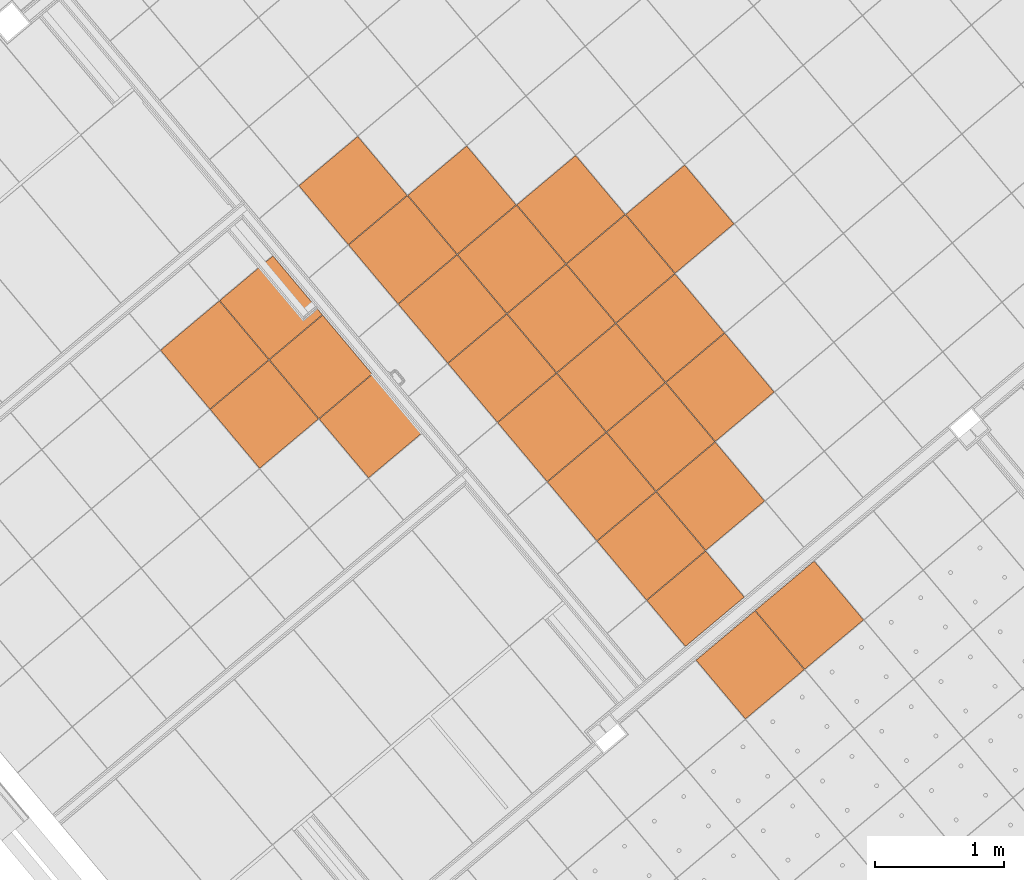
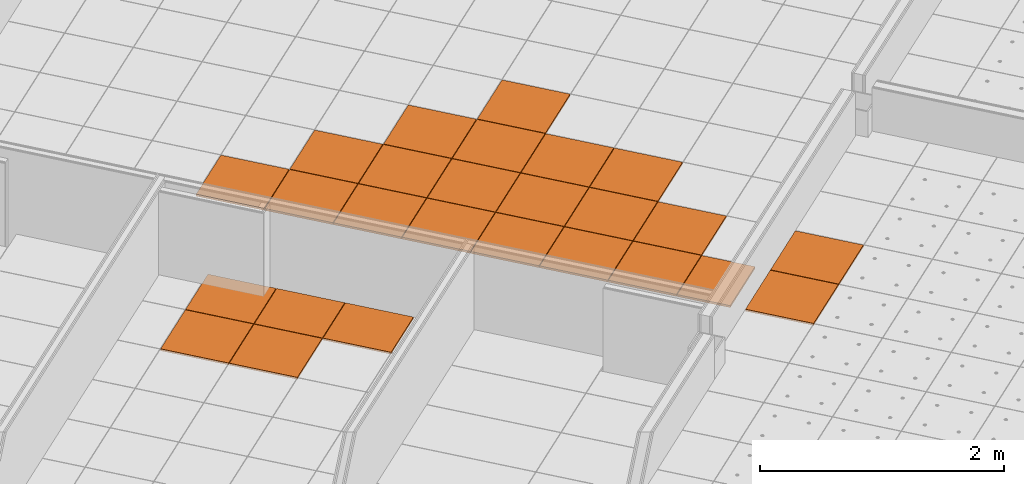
# One storey, part 145 of 338: 26 proxies, 3 elements without a shape of their own.
"""IFC2X3 building model written with IfcOpenShell, lengths in millimetres."""

from ifc_helpers import new_model, entity, si_unit, converted_unit, derived_unit, money_unit, direction, frame, origin_with_axes, place, context, subcontext, project, spatial, faceted_brep, source, transform, mapped, material, type_object, type_shapes, element, aggregate, save


model = new_model("IFC2X3")

# Units and contexts
model_context = context("Model", 3, precision=0.01, world=origin_with_axes(), true_north=direction((0.0, 1.0)))
plan_context = context("Plan", 3, precision=0.01, world=origin_with_axes(), true_north=direction((0.0, 1.0)))
body_context = subcontext(model_context, "Body", "Model", "MODEL_VIEW")
ifc_project = project(units=[si_unit("LENGTHUNIT", "METRE", prefix="MILLI"), si_unit("AREAUNIT", "SQUARE_METRE"), si_unit("VOLUMEUNIT", "CUBIC_METRE"), converted_unit("PLANEANGLEUNIT", "DEGREE", entity("IfcPlaneAngleMeasure", 0.0174532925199), si_unit("PLANEANGLEUNIT", "RADIAN"), dimensions=[0, 0, 0, 0, 0, 0, 0]), money_unit("EUR"), converted_unit("TIMEUNIT", "Year", entity("IfcTimeMeasure", 31556926.0), si_unit("TIMEUNIT", "SECOND"), dimensions=[0, 0, 1, 0, 0, 0, 0]), si_unit("MASSUNIT", "GRAM", prefix="KILO"), si_unit("THERMODYNAMICTEMPERATUREUNIT", "DEGREE_CELSIUS"), si_unit("LUMINOUSINTENSITYUNIT", "LUMEN"), si_unit("ENERGYUNIT", "JOULE", prefix="MEGA"), derived_unit("THERMALCONDUCTANCEUNIT", [(si_unit("POWERUNIT", "WATT"), 1), (si_unit("LENGTHUNIT", "METRE"), -1), (si_unit("THERMODYNAMICTEMPERATUREUNIT", "KELVIN"), -1)]), derived_unit("SPECIFICHEATCAPACITYUNIT", [(si_unit("ENERGYUNIT", "JOULE"), 1), (si_unit("MASSUNIT", "GRAM", prefix="KILO"), -1), (si_unit("THERMODYNAMICTEMPERATUREUNIT", "KELVIN"), -1)]), derived_unit("MASSDENSITYUNIT", [(si_unit("MASSUNIT", "GRAM", prefix="KILO"), 1), (si_unit("VOLUMEUNIT", "CUBIC_METRE"), -1)])], contexts=[model_context, plan_context])

# Site, building, storey
site_placement = place(None, origin_with_axes())
site = spatial("IfcSite", under=ifc_project, at=site_placement, Name="Fortuinstraat Woensdrecht", CompositionType="ELEMENT")
building_placement = place(site_placement, origin_with_axes())
building = spatial("IfcBuilding", under=site, at=building_placement, Name="IKC Fortuna", CompositionType="ELEMENT")
storey_placement = place(building_placement, origin_with_axes())
storey = spatial("IfcBuildingStorey", under=building, at=storey_placement, Name="00 begane grond", CompositionType="ELEMENT", Elevation=0.0)

# Covering, proxies
covering_type = type_object("IfcCoveringType", Name="Curtain Wall Type", PredefinedType="CEILING")
covering_1_placement = place(storey_placement, frame((17937.1227498, -4186.27868692, 4660.0), z_axis=(0.0, 0.0, 1.0), x_axis=(1.0, 0.0, 0.0)))
covering_1 = element("IfcCovering", 1, at=covering_1_placement, inside=storey, type_object=covering_type, Name="45_Plafondafwerking_P02", PredefinedType="CEILING")
ifc_material = material(Name="Gipsplaat")
building_element_proxy_type_1 = type_object("IfcBuildingElementProxyType", Name="Distinct Panel 600 x 600 x 20", PredefinedType="NOTDEFINED")
shared_shape_1 = source(origin_with_axes(), body_context, "Body", "Brep", [
    faceted_brep([(2.49999999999, 2.5, -10.0), (597.5, 2.49999999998, -10.0), (597.5, 2.49999999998, 10.0), (2.49999999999, 2.5, 10.0), (2.50000000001, 597.5, -10.0), (597.5, 597.5, -10.0), (597.5, 597.5, 10.0), (2.50000000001, 597.5, 10.0)], [[[0, 1, 2, 3]], [[0, 4, 5, 1]], [[1, 5, 6, 2]], [[3, 2, 6, 7]], [[4, 0, 3, 7]], [[5, 4, 7, 6]]]),
])
proxy_1_placement = place(covering_1_placement, frame((-4743.95298071, -1813.8520166, 2.18491891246e-10), z_axis=(0.0, 0.0, 1.0), x_axis=(1.0, 0.0, 0.0)))
proxy_1 = element("IfcBuildingElementProxy", 2, at=proxy_1_placement, type_object=building_element_proxy_type_1, material=ifc_material, Name="__Panel-D", context=body_context, shape_type="MappedRepresentation", body=[
    mapped(shared_shape_1, transform((36.9769427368, 422.649625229, 0.0), x_axis=(-0.766044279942, -0.642787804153, 0.0), y_axis=(0.642787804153, -0.766044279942, 0.0), z_axis=(0.0, 0.0, 1.0))),
])
proxy_2_placement = place(covering_1_placement, frame((-5589.25223117, -1739.89813113, 2.3803181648e-10), z_axis=(0.0, 0.0, 1.0), x_axis=(1.0, 0.0, 0.0)))
proxy_2 = element("IfcBuildingElementProxy", 3, at=proxy_2_placement, type_object=building_element_proxy_type_1, material=ifc_material, Name="__Panel-D", context=body_context, shape_type="MappedRepresentation", body=[
    mapped(shared_shape_1, transform((36.9769427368, 422.649625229, 0.0), x_axis=(-0.766044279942, -0.642787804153, 0.0), y_axis=(0.642787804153, -0.766044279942, 0.0), z_axis=(0.0, 0.0, 1.0))),
])
proxy_3_placement = place(covering_1_placement, frame((-5129.62566321, -1354.22544863, 2.18491891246e-10), z_axis=(0.0, 0.0, 1.0), x_axis=(1.0, 0.0, 0.0)))
proxy_3 = element("IfcBuildingElementProxy", 4, at=proxy_3_placement, type_object=building_element_proxy_type_1, material=ifc_material, Name="__Panel-D", context=body_context, shape_type="MappedRepresentation", body=[
    mapped(shared_shape_1, transform((36.9769427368, 422.649625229, 0.0), x_axis=(-0.766044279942, -0.642787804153, 0.0), y_axis=(0.642787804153, -0.766044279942, 0.0), z_axis=(0.0, 0.0, 1.0))),
])
proxy_4_placement = place(covering_1_placement, frame((-5515.2983457, -894.598880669, 2.18491891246e-10), z_axis=(0.0, 0.0, 1.0), x_axis=(1.0, 0.0, 0.0)))
proxy_4 = element("IfcBuildingElementProxy", 5, at=proxy_4_placement, type_object=building_element_proxy_type_1, material=ifc_material, Name="__Panel-D", context=body_context, shape_type="MappedRepresentation", body=[
    mapped(shared_shape_1, transform((36.9769427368, 422.649625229, 0.0), x_axis=(-0.766044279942, -0.642787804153, 0.0), y_axis=(0.642787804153, -0.766044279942, 0.0), z_axis=(0.0, 0.0, 1.0))),
])
proxy_5_placement = place(covering_1_placement, frame((-5900.97102819, -434.972312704, 2.18491891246e-10), z_axis=(0.0, 0.0, 1.0), x_axis=(1.0, 0.0, 0.0)))
proxy_5 = element("IfcBuildingElementProxy", 6, at=proxy_5_placement, type_object=building_element_proxy_type_1, material=ifc_material, Name="__Panel-D", context=body_context, shape_type="MappedRepresentation", body=[
    mapped(shared_shape_1, transform((36.9769427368, 422.649625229, 0.0), x_axis=(-0.766044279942, -0.642787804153, 0.0), y_axis=(0.642787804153, -0.766044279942, 0.0), z_axis=(0.0, 0.0, 1.0))),
])
proxy_6_placement = place(covering_1_placement, frame((-5277.53343415, -3044.82394955, 2.57571741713e-10), z_axis=(0.0, 0.0, 1.0), x_axis=(1.0, 0.0, 0.0)))
proxy_6 = element("IfcBuildingElementProxy", 7, at=proxy_6_placement, type_object=building_element_proxy_type_1, material=ifc_material, Name="__Panel-D", context=body_context, shape_type="MappedRepresentation", body=[
    mapped(shared_shape_1, transform((36.9769427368, 422.649625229, 0.0), x_axis=(-0.766044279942, -0.642787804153, 0.0), y_axis=(0.642787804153, -0.766044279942, 0.0), z_axis=(0.0, 0.0, 1.0))),
])
proxy_7_placement = place(covering_1_placement, frame((-6434.55148163, -1665.94424565, 2.57571741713e-10), z_axis=(0.0, 0.0, 1.0), x_axis=(1.0, 0.0, 0.0)))
proxy_7 = element("IfcBuildingElementProxy", 8, at=proxy_7_placement, type_object=building_element_proxy_type_1, material=ifc_material, Name="__Panel-D", context=body_context, shape_type="MappedRepresentation", body=[
    mapped(shared_shape_1, transform((36.9769427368, 422.649625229, 0.0), x_axis=(-0.766044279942, -0.642787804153, 0.0), y_axis=(0.642787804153, -0.766044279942, 0.0), z_axis=(0.0, 0.0, 1.0))),
])
proxy_8_placement = place(covering_1_placement, frame((-7591.5695291, -287.064541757, 2.57571741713e-10), z_axis=(0.0, 0.0, 1.0), x_axis=(1.0, 0.0, 0.0)))
proxy_8 = element("IfcBuildingElementProxy", 9, at=proxy_8_placement, type_object=building_element_proxy_type_1, material=ifc_material, Name="__Panel-D", context=body_context, shape_type="MappedRepresentation", body=[
    mapped(shared_shape_1, transform((36.9769427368, 422.649625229, 0.0), x_axis=(-0.766044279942, -0.642787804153, 0.0), y_axis=(0.642787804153, -0.766044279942, 0.0), z_axis=(0.0, 0.0, 1.0))),
])
proxy_9_placement = place(covering_1_placement, frame((-5055.67177773, -508.926198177, 1.98951966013e-10), z_axis=(0.0, 0.0, 1.0), x_axis=(1.0, 0.0, 0.0)))
proxy_9 = element("IfcBuildingElementProxy", 10, at=proxy_9_placement, type_object=building_element_proxy_type_1, material=ifc_material, Name="__Panel-D", context=body_context, shape_type="MappedRepresentation", body=[
    mapped(shared_shape_1, transform((36.9769427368, 422.649625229, 0.0), x_axis=(-0.766044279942, -0.642787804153, 0.0), y_axis=(0.642787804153, -0.766044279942, 0.0), z_axis=(0.0, 0.0, 1.0))),
])
proxy_10_placement = place(covering_1_placement, frame((-6048.87879914, -2125.57081362, 2.57571741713e-10), z_axis=(0.0, 0.0, 1.0), x_axis=(1.0, 0.0, 0.0)))
proxy_10 = element("IfcBuildingElementProxy", 11, at=proxy_10_placement, type_object=building_element_proxy_type_1, material=ifc_material, Name="__Panel-D", context=body_context, shape_type="MappedRepresentation", body=[
    mapped(shared_shape_1, transform((36.9769427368, 422.649625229, 0.0), x_axis=(-0.766044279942, -0.642787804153, 0.0), y_axis=(0.642787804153, -0.766044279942, 0.0), z_axis=(0.0, 0.0, 1.0))),
])
proxy_11_placement = place(covering_1_placement, frame((-6820.22416412, -1206.31767769, 2.57571741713e-10), z_axis=(0.0, 0.0, 1.0), x_axis=(1.0, 0.0, 0.0)))
proxy_11 = element("IfcBuildingElementProxy", 12, at=proxy_11_placement, type_object=building_element_proxy_type_1, material=ifc_material, Name="__Panel-D", context=body_context, shape_type="MappedRepresentation", body=[
    mapped(shared_shape_1, transform((36.9769427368, 422.649625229, 0.0), x_axis=(-0.766044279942, -0.642787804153, 0.0), y_axis=(0.642787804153, -0.766044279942, 0.0), z_axis=(0.0, 0.0, 1.0))),
])
proxy_12_placement = place(covering_1_placement, frame((-4817.90686619, -2659.15126706, 2.3803181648e-10), z_axis=(0.0, 0.0, 1.0), x_axis=(1.0, 0.0, 0.0)))
proxy_12 = element("IfcBuildingElementProxy", 13, at=proxy_12_placement, type_object=building_element_proxy_type_1, material=ifc_material, Name="__Panel-D", context=body_context, shape_type="MappedRepresentation", body=[
    mapped(shared_shape_1, transform((36.9769427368, 422.649625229, 0.0), x_axis=(-0.766044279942, -0.642787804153, 0.0), y_axis=(0.642787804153, -0.766044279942, 0.0), z_axis=(0.0, 0.0, 1.0))),
])
proxy_13_placement = place(covering_1_placement, frame((-5203.57954868, -2199.52469909, 2.3803181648e-10), z_axis=(0.0, 0.0, 1.0), x_axis=(1.0, 0.0, 0.0)))
proxy_13 = element("IfcBuildingElementProxy", 14, at=proxy_13_placement, type_object=building_element_proxy_type_1, material=ifc_material, Name="__Panel-D", context=body_context, shape_type="MappedRepresentation", body=[
    mapped(shared_shape_1, transform((36.9769427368, 422.649625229, 0.0), x_axis=(-0.766044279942, -0.642787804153, 0.0), y_axis=(0.642787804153, -0.766044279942, 0.0), z_axis=(0.0, 0.0, 1.0))),
])
proxy_14_placement = place(covering_1_placement, frame((-7205.89684661, -746.691109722, 2.57571741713e-10), z_axis=(0.0, 0.0, 1.0), x_axis=(1.0, 0.0, 0.0)))
proxy_14 = element("IfcBuildingElementProxy", 15, at=proxy_14_placement, type_object=building_element_proxy_type_1, material=ifc_material, Name="__Panel-D", context=body_context, shape_type="MappedRepresentation", body=[
    mapped(shared_shape_1, transform((36.9769427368, 422.649625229, 0.0), x_axis=(-0.766044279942, -0.642787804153, 0.0), y_axis=(0.642787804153, -0.766044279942, 0.0), z_axis=(0.0, 0.0, 1.0))),
])
proxy_15_placement = place(covering_1_placement, frame((-5663.20611665, -2585.19738158, 2.57571741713e-10), z_axis=(0.0, 0.0, 1.0), x_axis=(1.0, 0.0, 0.0)))
proxy_15 = element("IfcBuildingElementProxy", 16, at=proxy_15_placement, type_object=building_element_proxy_type_1, material=ifc_material, Name="__Panel-D", context=body_context, shape_type="MappedRepresentation", body=[
    mapped(shared_shape_1, transform((36.9769427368, 422.649625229, 0.0), x_axis=(-0.766044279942, -0.642787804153, 0.0), y_axis=(0.642787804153, -0.766044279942, 0.0), z_axis=(0.0, 0.0, 1.0))),
])
proxy_16_placement = place(covering_1_placement, frame((-5974.92491366, -1280.27156316, 2.3803181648e-10), z_axis=(0.0, 0.0, 1.0), x_axis=(1.0, 0.0, 0.0)))
proxy_16 = element("IfcBuildingElementProxy", 17, at=proxy_16_placement, type_object=building_element_proxy_type_1, material=ifc_material, Name="__Panel-D", context=body_context, shape_type="MappedRepresentation", body=[
    mapped(shared_shape_1, transform((36.9769427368, 422.649625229, 0.0), x_axis=(-0.766044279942, -0.642787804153, 0.0), y_axis=(0.642787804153, -0.766044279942, 0.0), z_axis=(0.0, 0.0, 1.0))),
])
proxy_17_placement = place(covering_1_placement, frame((-6360.59759616, -820.644995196, 2.3803181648e-10), z_axis=(0.0, 0.0, 1.0), x_axis=(1.0, 0.0, 0.0)))
proxy_17 = element("IfcBuildingElementProxy", 18, at=proxy_17_placement, type_object=building_element_proxy_type_1, material=ifc_material, Name="__Panel-D", context=body_context, shape_type="MappedRepresentation", body=[
    mapped(shared_shape_1, transform((36.9769427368, 422.649625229, 0.0), x_axis=(-0.766044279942, -0.642787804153, 0.0), y_axis=(0.642787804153, -0.766044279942, 0.0), z_axis=(0.0, 0.0, 1.0))),
])
proxy_18_placement = place(covering_1_placement, frame((-6746.27027865, -361.01842723, 2.3803181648e-10), z_axis=(0.0, 0.0, 1.0), x_axis=(1.0, 0.0, 0.0)))
proxy_18 = element("IfcBuildingElementProxy", 19, at=proxy_18_placement, type_object=building_element_proxy_type_1, material=ifc_material, Name="__Panel-D", context=body_context, shape_type="MappedRepresentation", body=[
    mapped(shared_shape_1, transform((36.9769427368, 422.649625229, 0.0), x_axis=(-0.766044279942, -0.642787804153, 0.0), y_axis=(0.642787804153, -0.766044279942, 0.0), z_axis=(0.0, 0.0, 1.0))),
])
building_element_proxy_type_2 = type_object("IfcBuildingElementProxyType", Name="Distinct Panel 600 x 470 x 20", PredefinedType="NOTDEFINED")
shared_shape_2 = source(origin_with_axes(), body_context, "Body", "Brep", [
    faceted_brep([(2.49999368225, 2.50000660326, -10.0), (597.499997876, 2.49999535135, -10.0), (597.499997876, 2.49999535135, 10.0), (2.49999368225, 2.50000660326, 10.0), (2.49999873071, 467.226768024, -10.0), (597.500011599, 467.226749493, -10.0), (597.500011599, 467.226749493, 10.0), (2.49999873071, 467.226768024, 10.0)], [[[0, 1, 2, 3]], [[0, 4, 5, 1]], [[1, 5, 6, 2]], [[3, 2, 6, 7]], [[4, 0, 3, 7]], [[5, 4, 7, 6]]]),
])
type_shapes(building_element_proxy_type_2, [shared_shape_2])
proxy_19_placement = place(covering_1_placement, frame((-4933.72977742, -3454.55298137, 2.57571741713e-10), z_axis=(0.0, 0.0, 1.0), x_axis=(1.0, 0.0, 0.0)))
proxy_19 = element("IfcBuildingElementProxy", 20, at=proxy_19_placement, type_object=building_element_proxy_type_2, material=ifc_material, Name="__Panel-D", context=body_context, shape_type="MappedRepresentation", body=[
    mapped(shared_shape_2, transform((78.8459684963, 372.752089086, 0.0), x_axis=(-0.766044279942, -0.642787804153, 0.0), y_axis=(0.642787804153, -0.766044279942, 0.0), z_axis=(0.0, 0.0, 1.0))),
])
aggregate(covering_1, [proxy_19, proxy_1, proxy_2, proxy_3, proxy_4, proxy_5, proxy_6, proxy_7, proxy_8, proxy_9, proxy_10, proxy_11, proxy_12, proxy_13, proxy_14, proxy_15, proxy_16, proxy_17, proxy_18])

# Covering, proxy
covering_2_placement = place(storey_placement, frame((6990.12644751, -7663.89158706, 4260.0), z_axis=(0.0, 0.0, 1.0), x_axis=(1.0, 0.0, 0.0)))
covering_2 = element("IfcCovering", 21, at=covering_2_placement, inside=storey, type_object=covering_type, Name="45_Plafondafwerking_P02", PredefinedType="CEILING")
shared_shape_3 = source(origin_with_axes(), body_context, "Body", "Brep", [
    faceted_brep([(2.50000189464, 2.50000510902, -10.0), (597.499994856, 2.50000185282, -10.0), (597.499994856, 2.50000185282, 10.0), (2.50000189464, 2.50000510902, 10.0), (2.4999970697, 597.49998844, -10.0), (597.499988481, 597.500002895, -10.0), (597.499988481, 597.500002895, 10.0), (2.4999970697, 597.49998844, 10.0)], [[[0, 1, 2, 3]], [[0, 4, 5, 1]], [[1, 5, 6, 2]], [[3, 2, 6, 7]], [[4, 0, 3, 7]], [[5, 4, 7, 6]]]),
])
proxy_20_placement = place(covering_2_placement, frame((2281.65737405, 1914.53884807, 0.0), z_axis=(0.0, 0.0, 1.0), x_axis=(1.0, 0.0, 0.0)))
proxy_20 = element("IfcBuildingElementProxy", 22, at=proxy_20_placement, type_object=building_element_proxy_type_1, material=ifc_material, Name="__Panel-D", context=body_context, shape_type="MappedRepresentation", body=[
    mapped(shared_shape_3, transform((36.9769427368, 422.649625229, 0.0), x_axis=(-0.766044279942, -0.642787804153, 0.0), y_axis=(0.642787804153, -0.766044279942, 0.0), z_axis=(0.0, 0.0, 1.0))),
])

# Covering, proxies
covering_3_placement = place(storey_placement, frame((15150.6418133, -6622.13986243, 4660.0), z_axis=(0.0, 0.0, 1.0), x_axis=(1.0, 0.0, 0.0)))
covering_3 = element("IfcCovering", 23, at=covering_3_placement, inside=storey, type_object=covering_type, Name="45_Plafondafwerking_P01", PredefinedType="CEILING")
building_element_proxy_type_3 = type_object("IfcBuildingElementProxyType", Name="600 x 600 x 20", PredefinedType="NOTDEFINED")
shared_shape_4 = source(origin_with_axes(), body_context, "Body", "Brep", [
    faceted_brep([(2.49999732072, 2.50000913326, -10.0), (597.499988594, 2.49999469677, -10.0), (597.499988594, 2.49999469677, 10.0), (2.49999732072, 2.50000913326, 10.0), (2.49999902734, 597.500043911, -10.0), (597.499988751, 597.500047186, -10.0), (597.499988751, 597.500047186, 10.0), (2.49999902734, 597.500043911, 10.0)], [[[0, 1, 2, 3]], [[0, 4, 5, 1]], [[1, 5, 6, 2]], [[3, 2, 6, 7]], [[4, 0, 3, 7]], [[5, 4, 7, 6]]]),
])
type_shapes(building_element_proxy_type_3, [shared_shape_4])
proxy_21_placement = place(covering_3_placement, frame((-1264.27513491, -1145.70371141, 0.0), z_axis=(0.0, 0.0, 1.0), x_axis=(1.0, 0.0, 0.0)))
proxy_21 = element("IfcBuildingElementProxy", 24, at=proxy_21_placement, type_object=building_element_proxy_type_3, material=ifc_material, Name="__600x602 Rockfon Krios", context=body_context, shape_type="MappedRepresentation", body=[
    mapped(shared_shape_4, transform((36.9769427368, 422.649625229, 0.0), x_axis=(-0.766044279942, -0.642787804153, 0.0), y_axis=(0.642787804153, -0.766044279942, 0.0), z_axis=(0.0, 0.0, 1.0))),
])
proxy_22_placement = place(covering_3_placement, frame((-1723.90170288, -1531.3763939, 0.0), z_axis=(0.0, 0.0, 1.0), x_axis=(1.0, 0.0, 0.0)))
proxy_22 = element("IfcBuildingElementProxy", 25, at=proxy_22_placement, type_object=building_element_proxy_type_3, material=ifc_material, Name="__600x627 Rockfon Krios", context=body_context, shape_type="MappedRepresentation", body=[
    mapped(shared_shape_4, transform((36.9769427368, 422.649625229, 0.0), x_axis=(-0.766044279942, -0.642787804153, 0.0), y_axis=(0.642787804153, -0.766044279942, 0.0), z_axis=(0.0, 0.0, 1.0))),
])
aggregate(covering_3, [proxy_21, proxy_22])

# Proxy
shared_shape_5 = source(origin_with_axes(), body_context, "Body", "Brep", [
    faceted_brep([(2.49999999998, 2.5, -10.0), (597.5, 2.49999999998, -10.0), (597.5, 2.49999999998, 10.0), (2.49999999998, 2.5, 10.0), (2.50000000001, 597.5, -10.0), (597.5, 597.5, -10.0), (597.5, 597.5, 10.0), (2.50000000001, 597.5, 10.0)], [[[0, 1, 2, 3]], [[0, 4, 5, 1]], [[1, 5, 6, 2]], [[3, 2, 6, 7]], [[4, 0, 3, 7]], [[5, 4, 7, 6]]]),
])
type_shapes(building_element_proxy_type_1, [shared_shape_1, shared_shape_3, shared_shape_5])
proxy_23_placement = place(covering_2_placement, frame((2667.33005654, 1454.91228011, 0.0), z_axis=(0.0, 0.0, 1.0), x_axis=(1.0, 0.0, 0.0)))
proxy_23 = element("IfcBuildingElementProxy", 26, at=proxy_23_placement, type_object=building_element_proxy_type_1, material=ifc_material, Name="__Panel-D", context=body_context, shape_type="MappedRepresentation", body=[
    mapped(shared_shape_5, transform((36.9769427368, 422.649625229, 0.0), x_axis=(-0.766044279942, -0.642787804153, 0.0), y_axis=(0.642787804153, -0.766044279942, 0.0), z_axis=(0.0, 0.0, 1.0))),
])

building_element_proxy_type_4 = type_object("IfcBuildingElementProxyType", Name="Distinct Panel 543 x 600 x 20", PredefinedType="NOTDEFINED")
shared_shape_6 = source(origin_with_axes(), body_context, "Body", "Brep", [
    faceted_brep([(59.513776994, 2.49999852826, -10.0), (597.500000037, 2.50000507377, -10.0), (597.500000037, 2.50000507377, 10.0), (59.513776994, 2.49999852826, 10.0), (59.513779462, 597.499995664, -10.0), (597.499993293, 597.500009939, -10.0), (597.499993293, 597.500009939, 10.0), (59.513779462, 597.499995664, 10.0)], [[[0, 1, 2, 3]], [[0, 4, 5, 1]], [[1, 5, 6, 2]], [[3, 2, 6, 7]], [[4, 0, 3, 7]], [[5, 4, 7, 6]]]),
])
type_shapes(building_element_proxy_type_4, [shared_shape_6])
proxy_24_placement = place(covering_2_placement, frame((2719.44639858, 2281.88764647, 0.0), z_axis=(0.0, 0.0, 1.0), x_axis=(1.0, 0.0, 0.0)))
proxy_24 = element("IfcBuildingElementProxy", 27, at=proxy_24_placement, type_object=building_element_proxy_type_4, material=ifc_material, Name="__Panel-D", context=body_context, shape_type="MappedRepresentation", body=[
    mapped(shared_shape_6, transform((58.8144861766, 440.973509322, 0.0), x_axis=(-0.766044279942, -0.642787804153, 0.0), y_axis=(0.642787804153, -0.766044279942, 0.0), z_axis=(0.0, 0.0, 1.0))),
])

proxy_25_placement = place(covering_2_placement, frame((3105.11908107, 1822.26107851, 0.0), z_axis=(0.0, 0.0, 1.0), x_axis=(1.0, 0.0, 0.0)))
proxy_25 = element("IfcBuildingElementProxy", 28, at=proxy_25_placement, type_object=building_element_proxy_type_4, material=ifc_material, Name="__Panel-D", context=body_context, shape_type="MappedRepresentation", body=[
    mapped(shared_shape_6, transform((58.8144861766, 440.973509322, 0.0), x_axis=(-0.766044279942, -0.642787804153, 0.0), y_axis=(0.642787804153, -0.766044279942, 0.0), z_axis=(0.0, 0.0, 1.0))),
])

proxy_26_placement = place(covering_2_placement, frame((3490.79176356, 1362.63451054, 0.0), z_axis=(0.0, 0.0, 1.0), x_axis=(1.0, 0.0, 0.0)))
proxy_26 = element("IfcBuildingElementProxy", 29, at=proxy_26_placement, type_object=building_element_proxy_type_4, material=ifc_material, Name="__Panel-D", context=body_context, shape_type="MappedRepresentation", body=[
    mapped(shared_shape_6, transform((58.8144861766, 440.973509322, 0.0), x_axis=(-0.766044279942, -0.642787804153, 0.0), y_axis=(0.642787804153, -0.766044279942, 0.0), z_axis=(0.0, 0.0, 1.0))),
])

aggregate(covering_2, [proxy_23, proxy_20, proxy_24, proxy_25, proxy_26])

save(model, "model.ifc")
